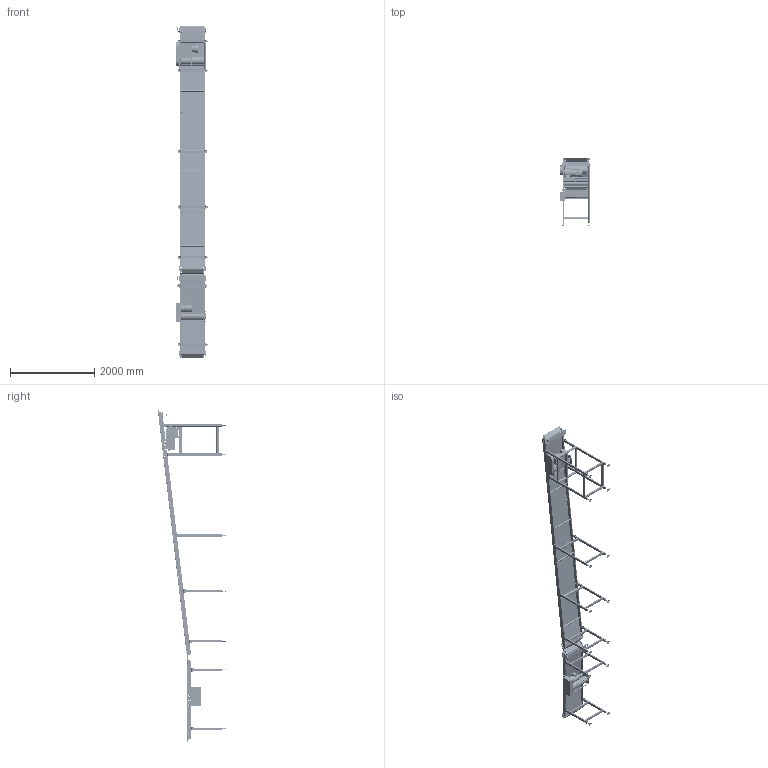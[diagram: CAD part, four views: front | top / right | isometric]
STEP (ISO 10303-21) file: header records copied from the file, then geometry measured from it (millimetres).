
FILE_DESCRIPTION(/* description */ (''),/* implementation_level */ '2;1');
FILE_NAME(/* name */ 'beltconveyor_a118_w500_l7900.stp',/* time_stamp */ '2025-01-12T16:22:13+08:00',/* author */ (''),/* organization */ (''),/* preprocessor_version */ 'ST-DEVELOPER v16.7',/* originating_system */ 'SIEMENS PLM Software NX 12.0',/* authorisation */ '');
FILE_SCHEMA (('AUTOMOTIVE_DESIGN { 1 0 10303 214 3 1 1 1 }'));
Products named in the file (71): CV400-80S-G2; PJ01-16-02-10; PJ01-16-02-13; PJ01-16-02-12_05B; PJ01-16-02-02; PJ01-16-02-11_05B; FPJ1616-Z-13-99_Default_按加工_; PJ01-16-03-03; PJ01-16-03-05; PJ01-16-03-02; PJ01-16-03-07; PJ01-16-03-01; PJ01-16-03-08; PJ01-16-03-06; PJ01-16-03-04; PJ01-16-02-09; PJ01-16-02-05; PJ01-16-02-01; 深沟球轴承6208-2Z; PJ01-16-02-04; PJ01-16-02-06; PJ01-16-02-07; PJ01-16-02-03; PJ01-17-02-01_05B; FPJ1616-Z-13-99a_Default_按加工_; FPJ1616-Z-13-99c_Default_按加工_; FPJ1616-Z-13-98_Default_按加工_; PJ01-01-11-02; FPJ1616-Z-13-99b_Default_按加工_; PJ01-16-08-01; M16脚杯; PJ01-17-06-01; 深沟球轴承61903-2Z; 轴用弹性挡圈A型17; PJ01-17-06-02; PJ01-16-07; 白色皮带1.2x500,L=4590; PJ01-16-01; PJ01-16-05; PJ01-17-06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
Assembly tree (227 placements, depth 4):
  beltconveyor_a118_w500_l7900
    PJ01-17-00
      轴用弹性挡圈A型30  x4
      PJ01-16-09
      PJ01-17-05
      PJ01-17-09  x4
      PJ01-17-04  x2
      皮带托辊组件  x5
        PJ01-17-06-02
        轴用弹性挡圈A型17
        深沟球轴承61903-2Z
        PJ01-17-06-01
      PJ01-16-02-08  x2
      PJ01-17-01
      PJ01-16-06
      PJ01-17-11
        M16脚杯  x2
        PJ01-16-08-01  x2
        FPJ1616-Z-13-99b_Default_按加工_
        PJ01-01-11-02  x2
      PJ01-17-10  x2
      CH1500-100S-G2
      皮带1.2x500,L=12430
      PJ01-17-07
      深沟球轴承6006-2Z  x8
      PJ01-17-14
        M16脚杯  x4
        PJ01-01-11-02  x4
        FPJ1616-Z-13-98_Default_按加工_
        PJ01-16-08-01  x4
      PJ01-17-12
        M16脚杯  x2
        PJ01-16-08-01  x2
        FPJ1616-Z-13-99c_Default_按加工_
        PJ01-01-11-02  x2
      PJ01-17-03
      PJ01-17-13
      PJ01-17-16_05B
      PJ01-16-10
      PJ01-16-04  x2
      PJ01-17-08
        FPJ1616-Z-13-99a_Default_按加工_
        M16脚杯  x2
        PJ01-16-08-01  x2
        PJ01-01-11-02  x2
      PJ01-17-02
        PJ01-17-02-01_05B
        PJ01-16-02-03
        深沟球轴承6006-2Z  x8
        PJ01-16-02-07  x4
        轴用弹性挡圈A型30  x4
        PJ01-16-02-06  x2
        PJ01-16-02-04
        深沟球轴承6208-2Z  x2
        PJ01-16-02-08  x2
        PJ01-16-02-01  x2
        PJ01-16-02-05
        PJ01-16-02-09  x2
      PJ01-17-15
      PJ01-16-03  x2
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Bounding box: 759.93 x 1624.66 x 7887.22 mm (x, y, z)
Volume: 90800195.4 mm3; surface area: 50832054.8 mm2
Topology: 483 solids, 483 shells, 21851 faces, 63080 edges, 41332 vertices
Faces by surface type: plane 5845, cylinder 5759, sphere 4872, torus 2769, cone 1858, extrusion 738, bspline 10
Entity records: 185952 total; most frequent: CARTESIAN_POINT 49180, ORIENTED_EDGE 28452, DIRECTION 25901, EDGE_CURVE 14226, AXIS2_PLACEMENT_3D 9849, VERTEX_POINT 9296, VECTOR 6203, EDGE_LOOP 6060
